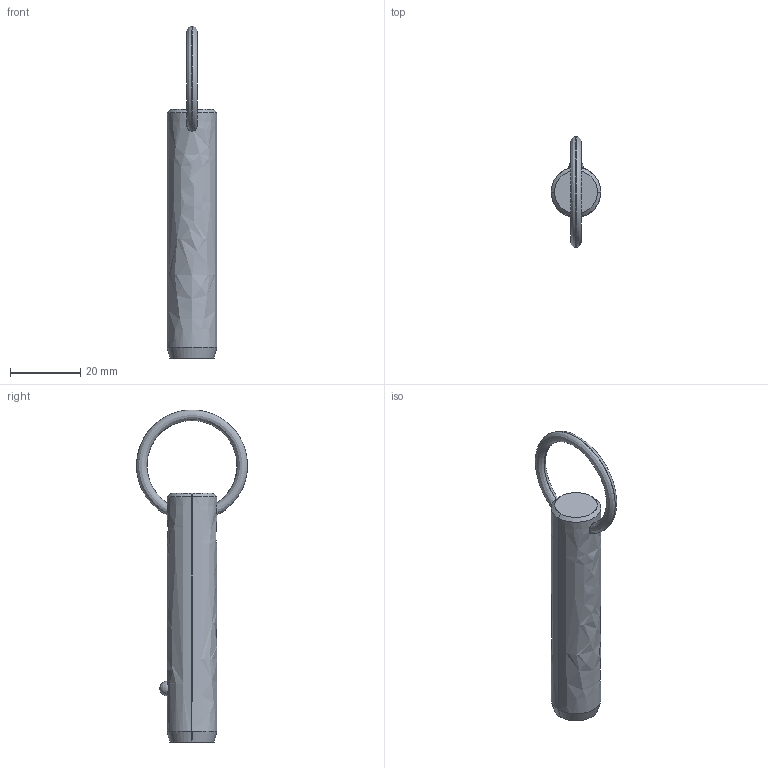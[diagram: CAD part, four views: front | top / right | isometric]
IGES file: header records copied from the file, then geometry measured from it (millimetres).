
Start section: SolidWorks IGES file using analytic representation for surfaces
Global section: file name: C:\Users\liam_\OneDrive\Documents\WORK\Work for WixRoyd\Job Files\J-00019 - Matt Davis CAD Checking\04. CAD Drawings\automotion20190605\P1250.2_v2\P1250.2_v2_20190729_IGES\P1250.056-180.igs; native system: SolidWorks 2017; preprocessor: SolidWorks 2017; author: liam_; date: 190729.231649; units: millimetre
Bounding box: 14.2 x 31.7 x 94.79 mm (x, y, z)
Surface area: 4133.2 mm2 (no closed solid volume)
Topology: 0 solids, 0 shells, 12 faces, 285 edges, 283 vertices
Faces by surface type: revolution 8, bspline 4
